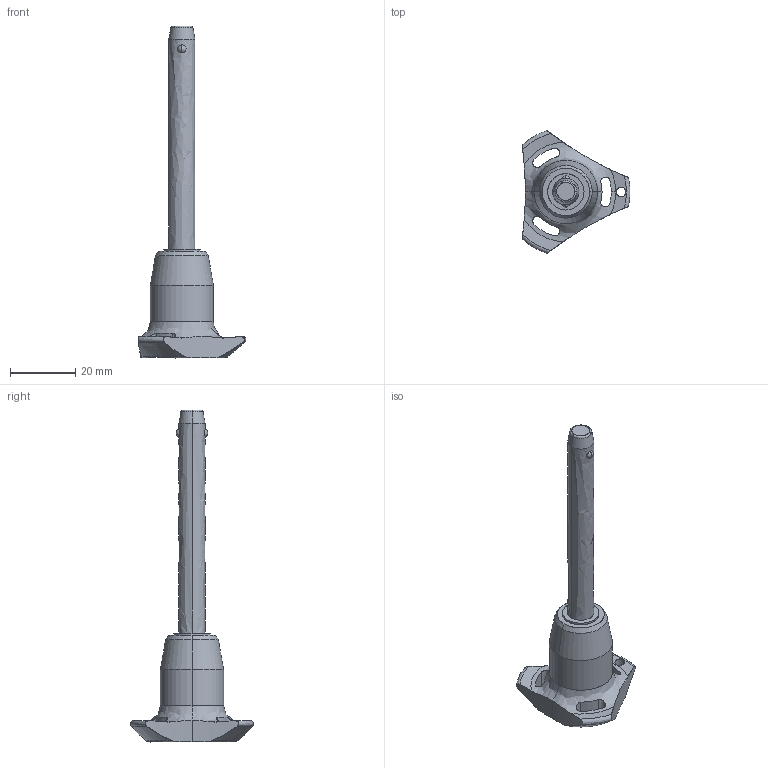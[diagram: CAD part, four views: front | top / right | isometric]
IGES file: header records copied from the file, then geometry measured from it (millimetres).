
Start section: SolidWorks IGES file using analytic representation for surfaces
Global section: file name: C:\Users\ianosborn\Desktop\QR1734_v2\QR1734_v2_20251113_IGES\QR1734.M08-060-S.igs; native system: SolidWorks 2019; preprocessor: SolidWorks 2019; author: IanOsborn; date: 251112.142238; units: millimetre
Bounding box: 33 x 37.51 x 101.5 mm (x, y, z)
Surface area: 5562.5 mm2 (no closed solid volume)
Topology: 0 solids, 0 shells, 65 faces, 1274 edges, 1270 vertices
Faces by surface type: revolution 50, bspline 15
